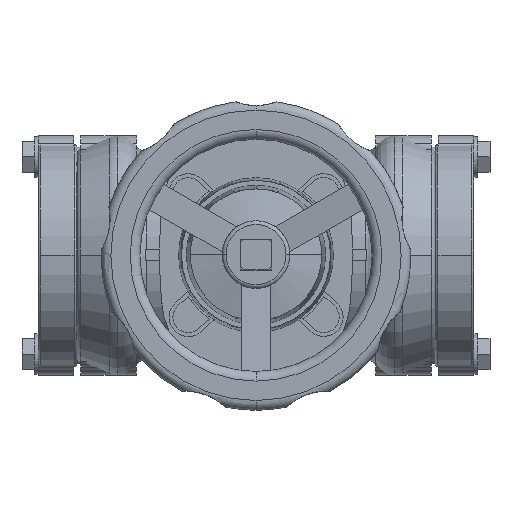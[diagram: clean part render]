
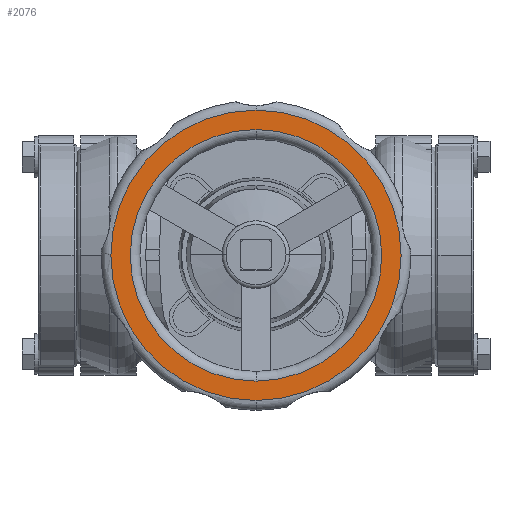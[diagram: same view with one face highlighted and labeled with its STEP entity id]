
A CAD part, top view. The second image highlights one B-rep face of the part: STEP entity #2076.
In plain terms, the highlighted planar face has unit normal (0, 0, 1).
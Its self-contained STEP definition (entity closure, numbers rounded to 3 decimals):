
#2076=ADVANCED_FACE('',(#4192,#4193),#4194,.T.);
#4192=FACE_BOUND('',#6967,.T.);
#4193=FACE_OUTER_BOUND('',#6968,.T.);
#4194=PLANE('',#6969);
#6967=EDGE_LOOP('',(#10481,#10482,#10483));
#6968=EDGE_LOOP('',(#10484,#10485,#10486));
#6969=AXIS2_PLACEMENT_3D('',#10487,#10488,#10489);
#10481=ORIENTED_EDGE('',*,*,#15050,.F.);
#10482=ORIENTED_EDGE('',*,*,#15049,.F.);
#10483=ORIENTED_EDGE('',*,*,#15654,.F.);
#10484=ORIENTED_EDGE('',*,*,#15931,.T.);
#10485=ORIENTED_EDGE('',*,*,#15932,.T.);
#10486=ORIENTED_EDGE('',*,*,#15933,.T.);
#10487=CARTESIAN_POINT('',(-42.5,-0.4,266.0));
#10488=DIRECTION('',(0.,0.,1.0));
#10489=DIRECTION('',(-1.0,0.,0.));
#15049=EDGE_CURVE('',#17666,#17668,#17669,.T.);
#15050=EDGE_CURVE('',#17668,#17659,#17670,.T.);
#15654=EDGE_CURVE('',#17659,#17666,#18668,.T.);
#15931=EDGE_CURVE('',#19104,#19105,#19106,.T.);
#15932=EDGE_CURVE('',#19105,#19107,#19108,.T.);
#15933=EDGE_CURVE('',#19107,#19104,#19109,.T.);
#17659=VERTEX_POINT('',#21288);
#17666=VERTEX_POINT('',#21295);
#17668=VERTEX_POINT('',#21297);
#17669=CIRCLE('',#21298,65.0);
#17670=CIRCLE('',#21299,65.0);
#18668=CIRCLE('',#22655,65.0);
#19104=VERTEX_POINT('',#23208);
#19105=VERTEX_POINT('',#23209);
#19106=CIRCLE('',#23210,75.0);
#19107=VERTEX_POINT('',#23211);
#19108=CIRCLE('',#23212,75.0);
#19109=CIRCLE('',#23213,75.0);
#21288=CARTESIAN_POINT('',(27.5,-65.4,266.0));
#21295=CARTESIAN_POINT('',(27.5,64.6,266.0));
#21297=CARTESIAN_POINT('',(-37.5,-0.4,266.0));
#21298=AXIS2_PLACEMENT_3D('',#25870,#25871,#25872);
#21299=AXIS2_PLACEMENT_3D('',#25873,#25874,#25875);
#22655=AXIS2_PLACEMENT_3D('',#26730,#26731,#26732);
#23208=CARTESIAN_POINT('',(-47.5,-0.4,266.0));
#23209=CARTESIAN_POINT('',(27.5,-75.4,266.0));
#23210=AXIS2_PLACEMENT_3D('',#27123,#27124,#27125);
#23211=CARTESIAN_POINT('',(27.5,74.6,266.0));
#23212=AXIS2_PLACEMENT_3D('',#27126,#27127,#27128);
#23213=AXIS2_PLACEMENT_3D('',#27129,#27130,#27131);
#25870=CARTESIAN_POINT('',(27.5,-0.4,266.0));
#25871=DIRECTION('',(0.,0.,1.0));
#25872=DIRECTION('',(-1.0,0.,0.));
#25873=CARTESIAN_POINT('',(27.5,-0.4,266.0));
#25874=DIRECTION('',(0.,0.,1.0));
#25875=DIRECTION('',(-1.0,0.,0.));
#26730=CARTESIAN_POINT('',(27.5,-0.4,266.0));
#26731=DIRECTION('',(0.,0.,1.0));
#26732=DIRECTION('',(-1.0,0.,0.));
#27123=CARTESIAN_POINT('',(27.5,-0.4,266.0));
#27124=DIRECTION('',(0.,0.,1.0));
#27125=DIRECTION('',(-1.0,0.,0.));
#27126=CARTESIAN_POINT('',(27.5,-0.4,266.0));
#27127=DIRECTION('',(0.,0.,1.0));
#27128=DIRECTION('',(-1.0,0.,0.));
#27129=CARTESIAN_POINT('',(27.5,-0.4,266.0));
#27130=DIRECTION('',(0.,0.,1.0));
#27131=DIRECTION('',(-1.0,0.,0.));
